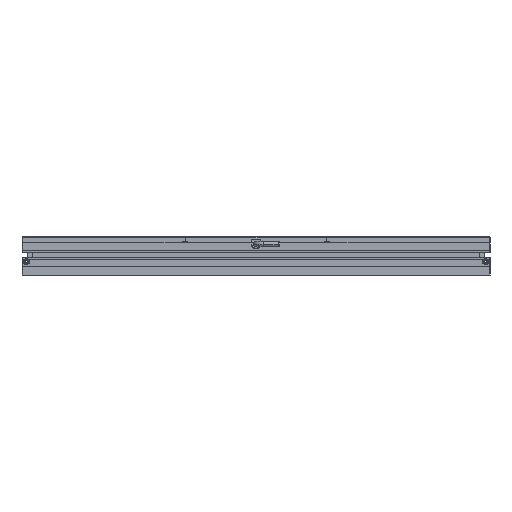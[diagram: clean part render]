
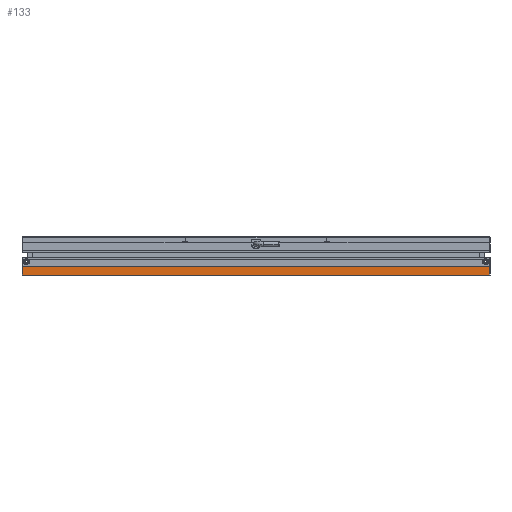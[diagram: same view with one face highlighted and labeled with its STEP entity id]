
A CAD part, left-side view. The second image highlights one B-rep face of the part: STEP entity #133.
In plain terms, the highlighted planar face has unit normal (-1, 0, 0).
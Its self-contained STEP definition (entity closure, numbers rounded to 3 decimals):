
#133 = ADVANCED_FACE ( 'NONE', ( #1008 ), #2575, .F. ) ;
#181 = ORIENTED_EDGE ( 'NONE', *, *, #5761, .T. ) ;
#257 = CARTESIAN_POINT ( 'NONE',  ( -207., -156.5, -16. ) ) ;
#513 = LINE ( 'NONE', #766, #6376 ) ;
#678 = CARTESIAN_POINT ( 'NONE',  ( -207., -157., -16. ) ) ;
#725 = DIRECTION ( 'NONE',  ( 0., 0., -1. ) ) ;
#742 = LINE ( 'NONE', #257, #4985 ) ;
#766 = CARTESIAN_POINT ( 'NONE',  ( -207., -157., -21.5 ) ) ;
#828 = VERTEX_POINT ( 'NONE', #7779 ) ;
#1008 = FACE_OUTER_BOUND ( 'NONE', #7607, .T. ) ;
#1034 = DIRECTION ( 'NONE',  ( 0., 0., 1. ) ) ;
#1354 = ORIENTED_EDGE ( 'NONE', *, *, #5832, .T. ) ;
#1384 = VERTEX_POINT ( 'NONE', #1917 ) ;
#1395 = CARTESIAN_POINT ( 'NONE',  ( -207., -156.5, -16. ) ) ;
#1917 = CARTESIAN_POINT ( 'NONE',  ( -207., 156.5, -21.5 ) ) ;
#1996 = CARTESIAN_POINT ( 'NONE',  ( -207., -156.5, -21.5 ) ) ;
#2553 = VECTOR ( 'NONE', #725, 1000. ) ;
#2575 = PLANE ( 'NONE',  #3232 ) ;
#3232 = AXIS2_PLACEMENT_3D ( 'NONE', #678, #7396, #3721 ) ;
#3457 = EDGE_CURVE ( 'NONE', #828, #5778, #6430, .T. ) ;
#3565 = ORIENTED_EDGE ( 'NONE', *, *, #3457, .F. ) ;
#3721 = DIRECTION ( 'NONE',  ( 0., 0., -1. ) ) ;
#3812 = CARTESIAN_POINT ( 'NONE',  ( -207., 156.5, -16. ) ) ;
#3965 = LINE ( 'NONE', #3812, #2553 ) ;
#4475 = DIRECTION ( 'NONE',  ( 0., -1., 0. ) ) ;
#4981 = DIRECTION ( 'NONE',  ( 0., -1., 0. ) ) ;
#4985 = VECTOR ( 'NONE', #1034, 1000. ) ;
#5252 = ORIENTED_EDGE ( 'NONE', *, *, #7499, .T. ) ;
#5761 = EDGE_CURVE ( 'NONE', #828, #1384, #3965, .T. ) ;
#5778 = VERTEX_POINT ( 'NONE', #1395 ) ;
#5832 = EDGE_CURVE ( 'NONE', #6864, #5778, #742, .T. ) ;
#6376 = VECTOR ( 'NONE', #4981, 1000. ) ;
#6430 = LINE ( 'NONE', #6879, #7100 ) ;
#6864 = VERTEX_POINT ( 'NONE', #1996 ) ;
#6879 = CARTESIAN_POINT ( 'NONE',  ( -207., -157., -16. ) ) ;
#7100 = VECTOR ( 'NONE', #4475, 1000. ) ;
#7396 = DIRECTION ( 'NONE',  ( 1., 0., 0. ) ) ;
#7499 = EDGE_CURVE ( 'NONE', #1384, #6864, #513, .T. ) ;
#7607 = EDGE_LOOP ( 'NONE', ( #5252, #1354, #3565, #181 ) ) ;
#7779 = CARTESIAN_POINT ( 'NONE',  ( -207., 156.5, -16. ) ) ;
